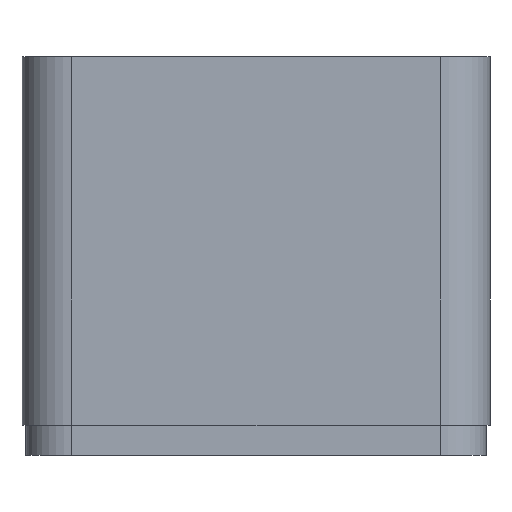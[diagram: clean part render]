
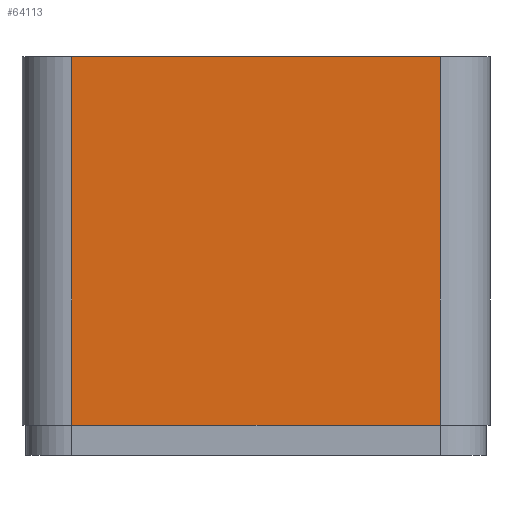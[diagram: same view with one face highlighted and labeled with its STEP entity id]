
A CAD part, left-side view. The second image highlights one B-rep face of the part: STEP entity #64113.
In plain terms, the highlighted planar face has unit normal (-1, 0, 0).
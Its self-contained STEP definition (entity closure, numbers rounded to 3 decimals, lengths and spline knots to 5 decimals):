
#16114=ORIENTED_EDGE('',*,*,#26914,.F.);
#16115=ORIENTED_EDGE('',*,*,#26915,.T.);
#16116=ORIENTED_EDGE('',*,*,#26916,.T.);
#16117=ORIENTED_EDGE('',*,*,#26917,.F.);
#26914=EDGE_CURVE('',#33554,#33555,#42458,.T.);
#26915=EDGE_CURVE('',#33554,#33556,#42459,.T.);
#26916=EDGE_CURVE('',#33556,#33557,#42460,.T.);
#26917=EDGE_CURVE('',#33555,#33557,#42461,.T.);
#33554=VERTEX_POINT('',#98070);
#33555=VERTEX_POINT('',#98071);
#33556=VERTEX_POINT('',#98073);
#33557=VERTEX_POINT('',#98075);
#42458=LINE('',#98069,#51778);
#42459=LINE('',#98072,#51779);
#42460=LINE('',#98074,#51780);
#42461=LINE('',#98076,#51781);
#51778=VECTOR('',#80101,1.);
#51779=VECTOR('',#80102,1.);
#51780=VECTOR('',#80103,1.);
#51781=VECTOR('',#80104,1.);
#55593=EDGE_LOOP('',(#16114,#16115,#16116,#16117));
#58605=FACE_BOUND('',#55593,.T.);
#61385=PLANE('',#66946);
#64113=ADVANCED_FACE('',(#58605),#61385,.F.);
#66946=AXIS2_PLACEMENT_3D('',#98068,#80099,#80100);
#80099=DIRECTION('',(1.,0.,0.));
#80100=DIRECTION('',(0.,1.,0.));
#80101=DIRECTION('',(0.,1.,0.));
#80102=DIRECTION('',(0.,0.,1.));
#80103=DIRECTION('',(0.,1.,0.));
#80104=DIRECTION('',(0.,0.,1.));
#98068=CARTESIAN_POINT('',(-0.1175,0.,-0.2));
#98069=CARTESIAN_POINT('',(-0.1175,0.,-0.1849));
#98070=CARTESIAN_POINT('',(-0.1175,-0.0925,-0.1849));
#98071=CARTESIAN_POINT('',(-0.1175,0.0925,-0.1849));
#98072=CARTESIAN_POINT('',(-0.1175,-0.0925,-0.2));
#98073=CARTESIAN_POINT('',(-0.1175,-0.0925,0.));
#98074=CARTESIAN_POINT('',(-0.1175,0.,0.));
#98075=CARTESIAN_POINT('',(-0.1175,0.0925,0.));
#98076=CARTESIAN_POINT('',(-0.1175,0.0925,-0.2));
